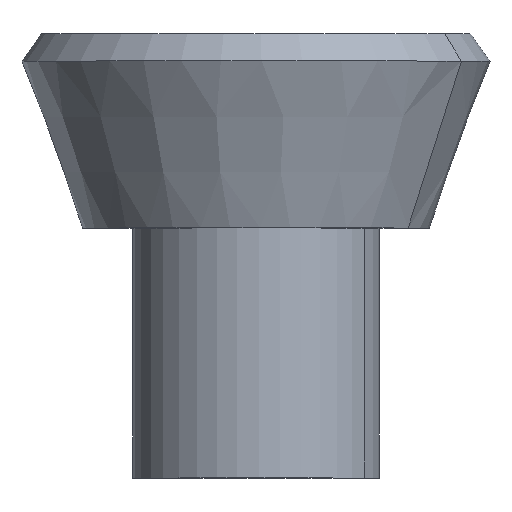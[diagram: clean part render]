
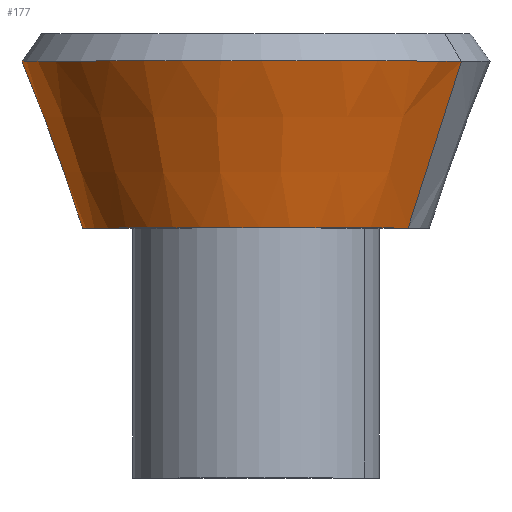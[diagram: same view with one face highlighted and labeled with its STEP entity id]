
A CAD part, top view. The second image highlights one B-rep face of the part: STEP entity #177.
In plain terms, the highlighted conical face has half-angle 20 degrees and reference radius 104 mm.
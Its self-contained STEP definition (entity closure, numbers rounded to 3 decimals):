
#114=CARTESIAN_POINT('Axis2P3D Location',(0.,0.,0.)) ;
#118=CARTESIAN_POINT('Vertex',(91.269,0.,49.86)) ;
#120=CARTESIAN_POINT('Vertex',(-91.269,0.,-49.86)) ;
#147=CARTESIAN_POINT('Axis2P3D Location',(0.,0.,0.)) ;
#152=CARTESIAN_POINT('Line Origine',(107.261,50.069,58.597)) ;
#156=CARTESIAN_POINT('Vertex',(123.254,100.139,67.334)) ;
#159=CARTESIAN_POINT('Axis2P3D Location',(0.,100.139,0.)) ;
#163=CARTESIAN_POINT('Vertex',(-123.254,100.139,-67.334)) ;
#166=CARTESIAN_POINT('Line Origine',(-107.261,50.069,-58.597)) ;
#115=DIRECTION('Axis2P3D Direction',(0.,-1.,0.)) ;
#148=DIRECTION('Axis2P3D Direction',(-0.,1.,-0.)) ;
#149=DIRECTION('Axis2P3D XDirection',(0.878,0.,0.479)) ;
#153=DIRECTION('Vector Direction',(0.3,0.94,0.164)) ;
#160=DIRECTION('Axis2P3D Direction',(0.,1.,-0.)) ;
#167=DIRECTION('Vector Direction',(-0.3,0.94,-0.164)) ;
#116=AXIS2_PLACEMENT_3D('Circle Axis2P3D',#114,#115,$) ;
#150=AXIS2_PLACEMENT_3D('Cone Axis2P3D',#147,#148,#149) ;
#161=AXIS2_PLACEMENT_3D('Circle Axis2P3D',#159,#160,$) ;
#172=ORIENTED_EDGE('',*,*,#122,.F.) ;
#173=ORIENTED_EDGE('',*,*,#158,.T.) ;
#174=ORIENTED_EDGE('',*,*,#165,.T.) ;
#175=ORIENTED_EDGE('',*,*,#170,.F.) ;
#154=VECTOR('Line Direction',#153,1.) ;
#168=VECTOR('Line Direction',#167,1.) ;
#177=ADVANCED_FACE('PartBody',(#176),#151,.T.) ;
#117=CIRCLE('generated circle',#116,104.) ;
#162=CIRCLE('generated circle',#161,140.448) ;
#151=CONICAL_SURFACE('Cone',#150,104.,0.349) ;
#122=EDGE_CURVE('',#119,#121,#117,.T.) ;
#158=EDGE_CURVE('',#119,#157,#155,.T.) ;
#165=EDGE_CURVE('',#157,#164,#162,.F.) ;
#170=EDGE_CURVE('',#121,#164,#169,.T.) ;
#171=EDGE_LOOP('',(#172,#173,#174,#175)) ;
#176=FACE_OUTER_BOUND('',#171,.T.) ;
#155=LINE('Line',#152,#154) ;
#169=LINE('Line',#166,#168) ;
#119=VERTEX_POINT('',#118) ;
#121=VERTEX_POINT('',#120) ;
#157=VERTEX_POINT('',#156) ;
#164=VERTEX_POINT('',#163) ;
